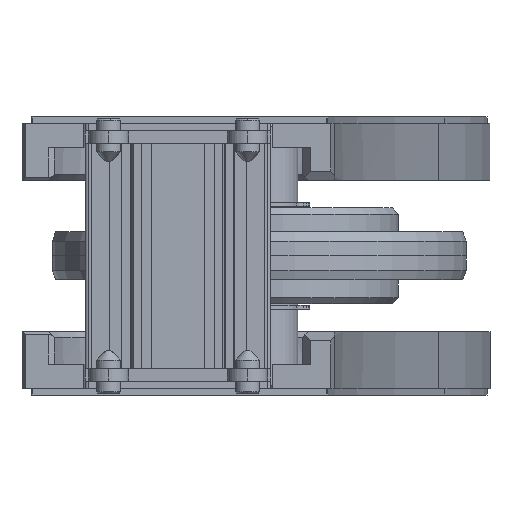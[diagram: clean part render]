
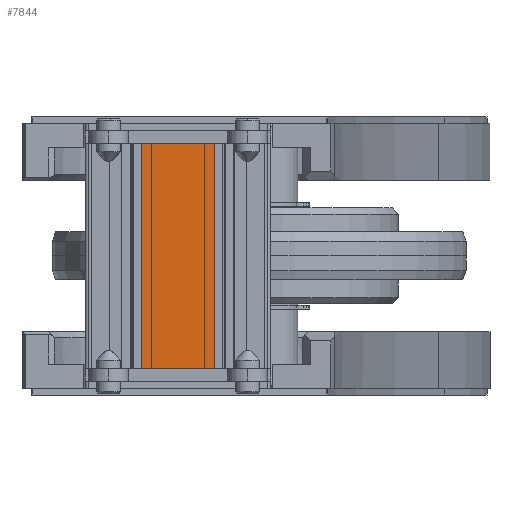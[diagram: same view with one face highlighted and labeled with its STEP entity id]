
A CAD part, left-side view. The second image highlights one B-rep face of the part: STEP entity #7844.
In plain terms, the highlighted planar face has unit normal (-1, 0, 0) as drawn and (0, 0, -1) by its records, which use the part's own axes.
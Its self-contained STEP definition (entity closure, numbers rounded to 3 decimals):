
#801 = CARTESIAN_POINT ( 'NONE',  ( 36.5, -3.15, -15. ) ) ;
#848 = CARTESIAN_POINT ( 'NONE',  ( 36.5, -3.15, -15. ) ) ;
#1397 = LINE ( 'NONE', #11169, #15088 ) ;
#1965 = VECTOR ( 'NONE', #11503, 1000. ) ;
#2068 = DIRECTION ( 'NONE',  ( 0., 0., 1. ) ) ;
#3000 = EDGE_CURVE ( 'NONE', #16245, #12347, #13314, .T. ) ;
#3928 = CARTESIAN_POINT ( 'NONE',  ( 36.5, -26.85, -15. ) ) ;
#4273 = EDGE_CURVE ( 'NONE', #12347, #6471, #1397, .T. ) ;
#4520 = DIRECTION ( 'NONE',  ( 0., 1., 0. ) ) ;
#4629 = DIRECTION ( 'NONE',  ( -1., 0., 0. ) ) ;
#5834 = VECTOR ( 'NONE', #4629, 1000. ) ;
#6471 = VERTEX_POINT ( 'NONE', #8215 ) ;
#6486 = LINE ( 'NONE', #16960, #16619 ) ;
#7705 = DIRECTION ( 'NONE',  ( 0., 1., 0. ) ) ;
#7844 = ADVANCED_FACE ( 'NONE', ( #9002 ), #13971, .F. ) ;
#8215 = CARTESIAN_POINT ( 'NONE',  ( -36.5, -3.15, -15. ) ) ;
#8308 = CARTESIAN_POINT ( 'NONE',  ( -36.5, -26.85, -15. ) ) ;
#8586 = ORIENTED_EDGE ( 'NONE', *, *, #12682, .F. ) ;
#9002 = FACE_OUTER_BOUND ( 'NONE', #11861, .T. ) ;
#9939 = CARTESIAN_POINT ( 'NONE',  ( 36.5, -26.85, -15. ) ) ;
#10052 = CARTESIAN_POINT ( 'NONE',  ( 36.5, -26.85, -15. ) ) ;
#11169 = CARTESIAN_POINT ( 'NONE',  ( -36.5, -26.85, -15. ) ) ;
#11333 = EDGE_CURVE ( 'NONE', #14782, #6471, #13002, .T. ) ;
#11388 = DIRECTION ( 'NONE',  ( 0., -1., 0. ) ) ;
#11503 = DIRECTION ( 'NONE',  ( -1., 0., 0. ) ) ;
#11623 = ORIENTED_EDGE ( 'NONE', *, *, #4273, .T. ) ;
#11861 = EDGE_LOOP ( 'NONE', ( #11623, #14567, #8586, #13442 ) ) ;
#12347 = VERTEX_POINT ( 'NONE', #8308 ) ;
#12402 = AXIS2_PLACEMENT_3D ( 'NONE', #10052, #2068, #11388 ) ;
#12682 = EDGE_CURVE ( 'NONE', #16245, #14782, #6486, .T. ) ;
#13002 = LINE ( 'NONE', #848, #1965 ) ;
#13314 = LINE ( 'NONE', #9939, #5834 ) ;
#13442 = ORIENTED_EDGE ( 'NONE', *, *, #3000, .T. ) ;
#13971 = PLANE ( 'NONE',  #12402 ) ;
#14567 = ORIENTED_EDGE ( 'NONE', *, *, #11333, .F. ) ;
#14782 = VERTEX_POINT ( 'NONE', #801 ) ;
#15088 = VECTOR ( 'NONE', #4520, 1000. ) ;
#16245 = VERTEX_POINT ( 'NONE', #3928 ) ;
#16619 = VECTOR ( 'NONE', #7705, 1000. ) ;
#16960 = CARTESIAN_POINT ( 'NONE',  ( 36.5, -26.85, -15. ) ) ;
